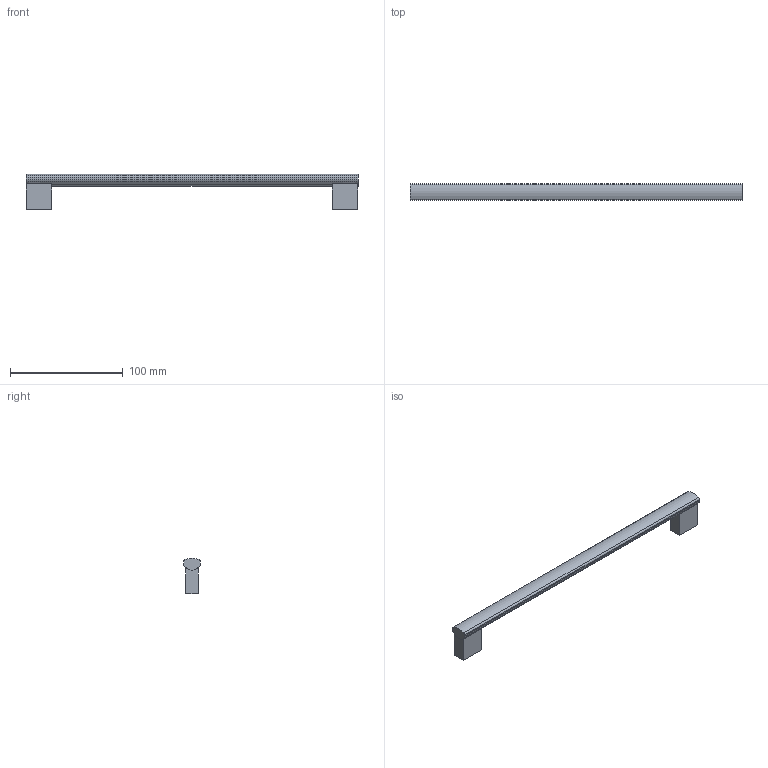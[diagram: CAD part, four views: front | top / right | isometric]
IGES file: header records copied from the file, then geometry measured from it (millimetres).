
Start section: Data from XPlus IGES,  Spatial Corp. Copyright (c) 1999-2004
Global section: file name: 115357.igs; native system:  By Spatial Corp.; preprocessor: XPlus ACIS/IGES 3.0; author: Noname; organization: Noname; date: 20130226.190326; units: millimetre
Bounding box: 294 x 15 x 31.44 mm (x, y, z)
Surface area: 15713.5 mm2 (no closed solid volume)
Topology: 0 solids, 0 shells, 30 faces, 144 edges, 144 vertices
Faces by surface type: extrusion 20, revolution 10
